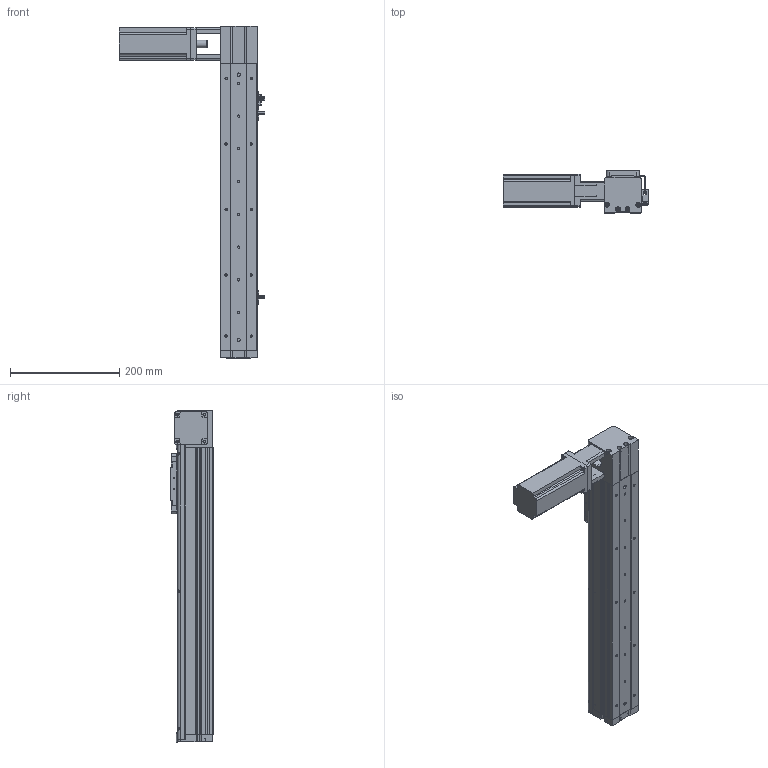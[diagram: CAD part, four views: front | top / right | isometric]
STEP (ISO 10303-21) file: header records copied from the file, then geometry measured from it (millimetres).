
FILE_DESCRIPTION (( 'STEP AP214' ), '1' );
FILE_NAME ('KSD68BS-S350-MLT-CR.STEP', '2019-11-08T05:14:27', ( '微软用户' ), ( '微软中国' ), 'SwSTEP 2.0', 'SolidWorks 2014', '' );
FILE_SCHEMA (( 'AUTOMOTIVE_DESIGN' ));
Length unit declared in the file: millimetre
Products named in the file (13): 100遵鎮湛假蚾啣1; KSD68BS 350行程盖板全封闭; 68遵裔啣揤啣1; 68宽单导轨全封闭丝杆传动安装板1防护罩; KSD68BS 350行程侧板全封闭; 68宽单导轨全封闭同步带端板; 68单导轨全封闭同步带电机座右; 68单导轨全封闭同步带安装板; 感应片68宽全封闭; U倰嫖萇EEㄜSX672; 台达ECMA－C20604AS伺服电机（400W); KSD68BS 350行程底板全封闭; KSD68BS-S350-MLT-CR
Assembly tree (16 placements, depth 2):
  KSD68BS-S350-MLT-CR
    KSD68BS 350行程底板全封闭
    台达ECMA－C20604AS伺服电机（400W)
    U倰嫖萇EEㄜSX672  x3
    感应片68宽全封闭
    68单导轨全封闭同步带安装板
    68单导轨全封闭同步带电机座右
    68宽单导轨全封闭同步带端板
    KSD68BS 350行程侧板全封闭  x2
    68宽单导轨全封闭丝杆传动安装板1防护罩
    68遵裔啣揤啣1  x2
    KSD68BS 350行程盖板全封闭
    100遵鎮湛假蚾啣1
Bounding box: 266.4 x 77 x 608.1 mm (x, y, z)
Volume: 1610702.3 mm3; surface area: 520202 mm2
Topology: 17 solids, 17 shells, 1314 faces, 3698 edges, 2375 vertices
Faces by surface type: plane 596, cylinder 586, cone 132
Entity records: 40549 total; most frequent: CARTESIAN_POINT 6743, DIRECTION 6086, ORIENTED_EDGE 5832, EDGE_CURVE 2916, AXIS2_PLACEMENT_3D 2164, VERTEX_POINT 1913, VECTOR 1758, LINE 1758
